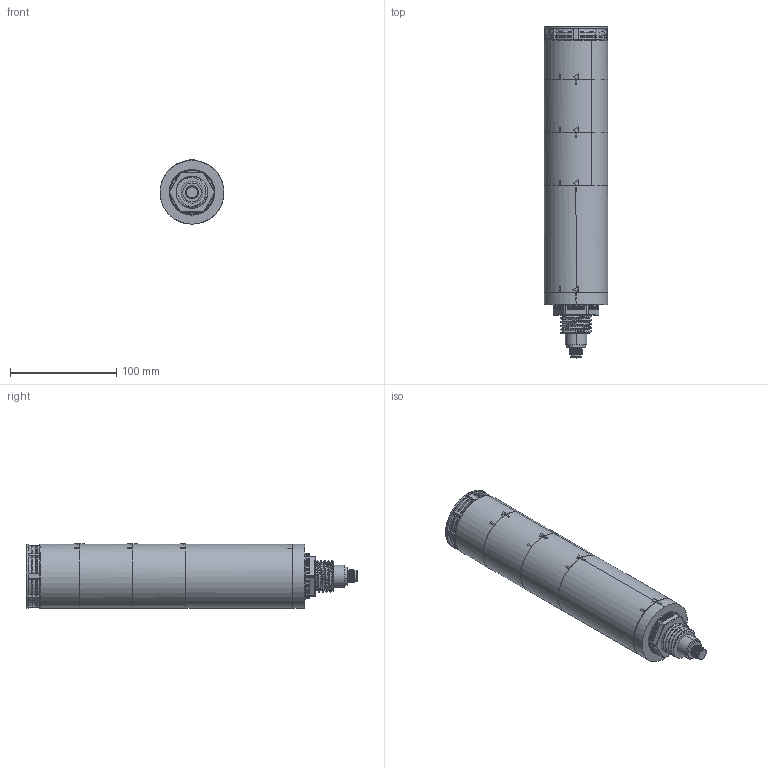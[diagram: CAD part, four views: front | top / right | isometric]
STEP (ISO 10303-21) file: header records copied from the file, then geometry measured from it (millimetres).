
FILE_DESCRIPTION (( 'STEP AP203' ), '1' );
FILE_NAME ('QTR60L-IOL-HBZ-2-RA-3D_250422.STEP', '2025-07-30T08:26:33', ( '' ), ( '' ), 'SwSTEP 2.0', 'SolidWorks 2019', '' );
FILE_SCHEMA (( 'CONFIG_CONTROL_DESIGN' ));
Length unit declared in the file: millimetre
Products named in the file (4): QTC60 GLOBE; QTR60L-IOL-HBZ-2-RA-3D_250422; QTG60 HBZ; 餌獄 MTG60-BS-DC-M12^QTR60L-IOL-HBZ-2-RA-3D_250422
Assembly tree (4 placements, depth 2):
  QTR60L-IOL-HBZ-2-RA-3D_250422
    餌獄 MTG60-BS-DC-M12^QTR60L-IOL-HBZ-2-RA-3D_250422
    QTC60 GLOBE  x2
    QTG60 HBZ
Bounding box: 60 x 312.3 x 60.5 mm (x, y, z)
Volume: 780638.2 mm3; surface area: 80685.2 mm2
Topology: 4 solids, 5 shells, 653 faces, 1824 edges, 1198 vertices
Faces by surface type: cylinder 438, plane 140, bspline 29, cone 18, torus 16, sphere 12
Entity records: 28891 total; most frequent: CARTESIAN_POINT 11755, DIRECTION 3699, ORIENTED_EDGE 3560, EDGE_CURVE 1780, AXIS2_PLACEMENT_3D 1510, VERTEX_POINT 1168, CIRCLE 895, VECTOR 679
